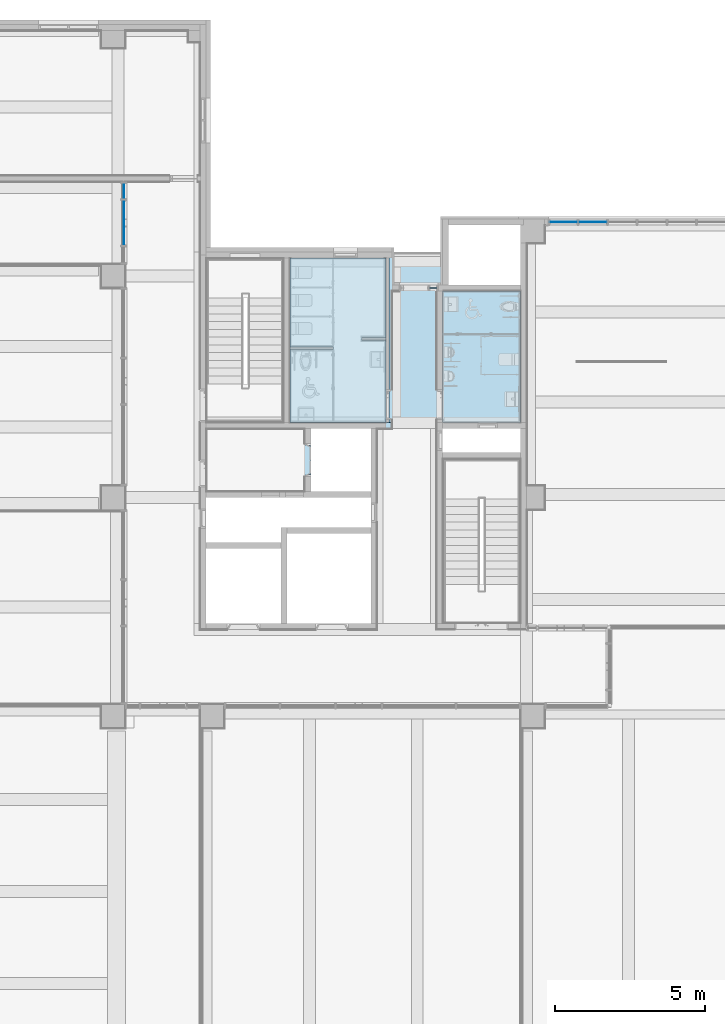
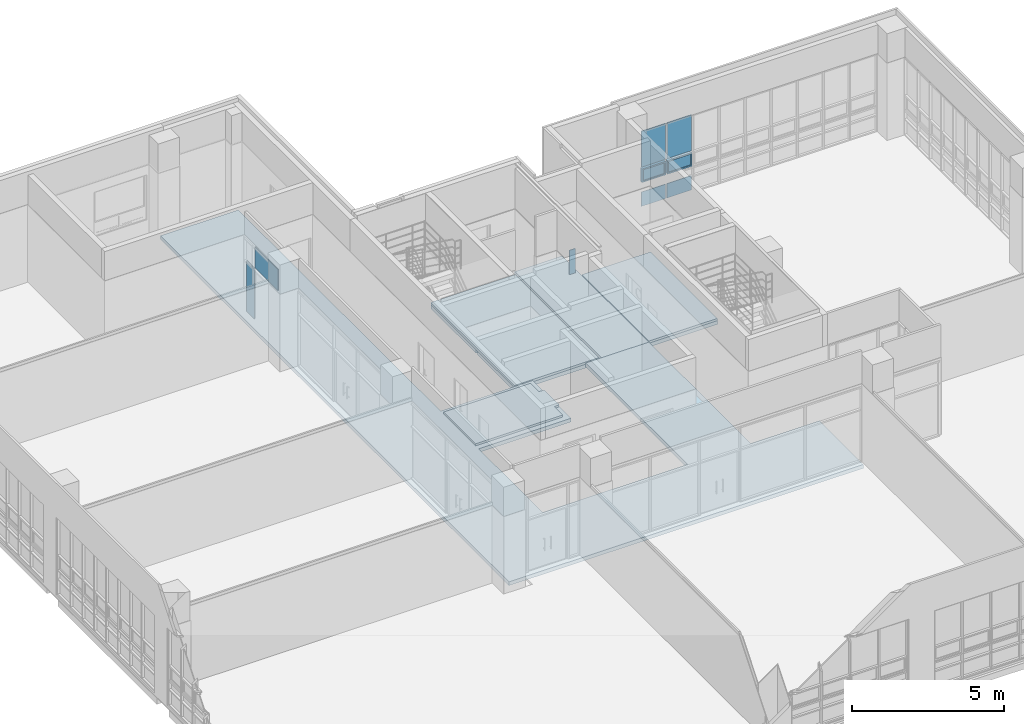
# One storey, part 35 of 74: 9 plates, 7 slabs, 3 elements without a shape of their own.
"""IFC2X3 building model written with IfcOpenShell, lengths in millimetres."""

from ifc_helpers import new_model, entity, si_unit, converted_unit, derived_unit, direction, frame, frame_2d, origin, origin_2d_with_axis, place, context, subcontext, project, spatial, polyline, rectangle, outline, extrude, source, transform, mapped, material, material_list, layer, layer_set, layer_usage, type_object, type_shapes, element, aggregate, save


model = new_model("IFC2X3")

# Units and contexts
model_context = context("Model", 3, precision=0.01, world=origin(), true_north=direction((6.123031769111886e-17, 1.0)))
body_context = subcontext(model_context, "Body", "Model", "MODEL_VIEW")
ifc_project = project(units=[si_unit("LENGTHUNIT", "METRE", prefix="MILLI"), si_unit("AREAUNIT", "SQUARE_METRE"), si_unit("VOLUMEUNIT", "CUBIC_METRE"), converted_unit("PLANEANGLEUNIT", "DEGREE", entity("IfcRatioMeasure", 0.017453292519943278), si_unit("PLANEANGLEUNIT", "RADIAN"), dimensions=[0, 0, 0, 0, 0, 0, 0]), si_unit("MASSUNIT", "GRAM", prefix="KILO"), derived_unit("MASSDENSITYUNIT", [(si_unit("MASSUNIT", "GRAM", prefix="KILO"), 1), (si_unit("LENGTHUNIT", "METRE"), -3)]), derived_unit("MOMENTOFINERTIAUNIT", [(si_unit("LENGTHUNIT", "METRE"), 4)]), si_unit("TIMEUNIT", "SECOND"), si_unit("FREQUENCYUNIT", "HERTZ"), si_unit("THERMODYNAMICTEMPERATUREUNIT", "DEGREE_CELSIUS"), derived_unit("THERMALTRANSMITTANCEUNIT", [(si_unit("MASSUNIT", "GRAM", prefix="KILO"), 1), (si_unit("THERMODYNAMICTEMPERATUREUNIT", "KELVIN"), -1), (si_unit("TIMEUNIT", "SECOND"), -3)]), derived_unit("VOLUMETRICFLOWRATEUNIT", [(si_unit("LENGTHUNIT", "METRE"), 3), (si_unit("TIMEUNIT", "SECOND"), -1)]), derived_unit("MASSFLOWRATEUNIT", [(si_unit("MASSUNIT", "GRAM", prefix="KILO"), 1), (si_unit("TIMEUNIT", "SECOND"), -1)]), derived_unit("ROTATIONALFREQUENCYUNIT", [(si_unit("TIMEUNIT", "SECOND"), -1)]), si_unit("ELECTRICCURRENTUNIT", "AMPERE"), si_unit("ELECTRICVOLTAGEUNIT", "VOLT"), si_unit("POWERUNIT", "WATT"), si_unit("FORCEUNIT", "NEWTON", prefix="KILO"), si_unit("ILLUMINANCEUNIT", "LUX"), si_unit("LUMINOUSFLUXUNIT", "LUMEN"), si_unit("LUMINOUSINTENSITYUNIT", "CANDELA"), derived_unit("USERDEFINED", [(si_unit("MASSUNIT", "GRAM", prefix="KILO"), -1), (si_unit("LENGTHUNIT", "METRE"), -2), (si_unit("TIMEUNIT", "SECOND"), 3), (si_unit("LUMINOUSFLUXUNIT", "LUMEN"), 1)]), derived_unit("SOUNDPOWERUNIT", [(si_unit("MASSUNIT", "GRAM", prefix="KILO"), 1), (si_unit("LENGTHUNIT", "METRE"), 2), (si_unit("TIMEUNIT", "SECOND"), -3)]), derived_unit("SOUNDPRESSUREUNIT", [(si_unit("MASSUNIT", "GRAM", prefix="KILO"), 1), (si_unit("LENGTHUNIT", "METRE"), -1), (si_unit("TIMEUNIT", "SECOND"), -2)]), derived_unit("LINEARVELOCITYUNIT", [(si_unit("LENGTHUNIT", "METRE"), 1), (si_unit("TIMEUNIT", "SECOND"), -1)]), si_unit("PRESSUREUNIT", "PASCAL"), derived_unit("USERDEFINED", [(si_unit("LENGTHUNIT", "METRE"), -2), (si_unit("MASSUNIT", "GRAM", prefix="KILO"), 1), (si_unit("TIMEUNIT", "SECOND"), -2)]), derived_unit("LINEARFORCEUNIT", [(si_unit("MASSUNIT", "GRAM", prefix="KILO"), 1), (si_unit("LENGTHUNIT", "METRE"), 1), (si_unit("TIMEUNIT", "SECOND"), -2), (si_unit("LENGTHUNIT", "METRE"), -1)]), derived_unit("PLANARFORCEUNIT", [(si_unit("MASSUNIT", "GRAM", prefix="KILO"), 1), (si_unit("LENGTHUNIT", "METRE"), 1), (si_unit("TIMEUNIT", "SECOND"), -2), (si_unit("LENGTHUNIT", "METRE"), -2)])], contexts=[model_context])

# Site, building, storey
site_placement = place(None, frame((-14167.972527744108, -657.2125860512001, 0.0)))
site = spatial("IfcSite", under=ifc_project, at=site_placement, Name="Default", CompositionType="ELEMENT")
building_placement = place(site_placement, origin())
building = spatial("IfcBuilding", under=site, at=building_placement, Name="Sample Building", CompositionType="ELEMENT")
storey_placement = place(building_placement, frame((0.0, 0.0, 4800.0)))
storey = spatial("IfcBuildingStorey", under=building, at=storey_placement, Name="지상 2층", CompositionType="ELEMENT", Elevation=4800.000000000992)

# Slabs
ifc_material_1 = material(Name="KBIMS-콘크리트")
ifc_layer_1 = layer(ifc_material_1, 150.0)
ifc_layer_set_1 = layer_set([ifc_layer_1], Name="바닥:SL111-철근콘크리트구조 바닥 150mm_S3")
ifc_layer_usage_1 = layer_usage(ifc_layer_set_1, "AXIS3", "POSITIVE", 0.0)
slab_type_1 = type_object("IfcSlabType", Name="바닥:SL111-철근콘크리트구조 바닥 150mm_S3", PredefinedType="FLOOR", material=ifc_layer_set_1)
slab_1_placement = place(storey_placement, origin())
element("IfcSlab", 1, at=slab_1_placement, inside=storey, type_object=slab_type_1, material=ifc_layer_usage_1, Name="바닥:SL111-철근콘크리트구조 바닥 150mm_S3", ObjectType="바닥:SL111-철근콘크리트구조 바닥 150mm_S3", PredefinedType="FLOOR", context=body_context, shape_type="SweptSolid", body=[
    extrude(outline(polyline([(-7857.142970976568, -6442.761990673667), (15042.857154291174, -6442.761990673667), (15042.857154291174, -3492.8773785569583), (1742.8571704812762, -3492.877378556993), (1742.8571704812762, 7.131351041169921), (-757.1428328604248, 7.131351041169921), (-757.1428328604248, -3492.877341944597), (-4957.142845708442, -3492.87734194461), (-4957.142845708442, 2007.1313510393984), (1742.8571704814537, 2007.1313510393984), (1742.8571704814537, 4407.122658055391), (-4957.142845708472, 4407.122658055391), (-4957.142845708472, 7007.131351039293), (-7857.142845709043, 7007.131351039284), (-7857.142970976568, -6442.761990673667)])), frame((33760.84114009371, 20714.355140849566, 0.0), z_axis=(0.0, 0.0, -1.0), x_axis=(0.0, 1.0, 0.0)), (0.0, 0.0, 1.0), 150.0),
])
ifc_material_2 = material(Name="SL312-화강석물갈기 바닥 (바탕30mm, 마감30mm)")
ifc_layer_2 = layer(ifc_material_2, 80.0)
ifc_layer_set_2 = layer_set([ifc_layer_2], Name="바닥:A1-15-01B-화강석(물갈기) (80mm)")
ifc_layer_usage_2 = layer_usage(ifc_layer_set_2, "AXIS3", "POSITIVE", 0.0)
slab_type_2 = type_object("IfcSlabType", Name="바닥:A1-15-01B-화강석(물갈기) (80mm)", PredefinedType="FLOOR", material=ifc_layer_set_2)
slab_2_placement = place(storey_placement, origin())
element("IfcSlab", 2, at=slab_2_placement, inside=storey, type_object=slab_type_2, material=ifc_layer_usage_2, Name="바닥:A1-15-01B-화강석(물갈기) (80mm)", ObjectType="바닥:A1-15-01B-화강석(물갈기) (80mm)", PredefinedType="FLOOR", context=body_context, shape_type="SweptSolid", body=[
    extrude(outline(polyline([(-1050.0, -2525.0), (1050.0, -2525.0), (1050.0, 775.0), (507.3633281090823, 775.0), (479.7770683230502, 975.0), (-479.7770683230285, 975.0), (-507.3633281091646, 775.0), (-1050.0, 775.0), (-1050.0, -2525.0)])), frame((32791.125814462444, 21207.212309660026, 80.0), z_axis=(0.0, 0.0, -1.0), x_axis=(0.0, 1.0, 0.0)), (0.0, 0.0, 1.0), 80.00000000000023),
])

# Curtain wall, plates
curtain_wall_type = type_object("IfcCurtainWallType", Name="커튼월:CW112-스테인리스 스틸 커튼월", PredefinedType="NOTDEFINED")
curtain_wall_1_placement = place(storey_placement, frame((0.0, 0.0, -4800.0)))
curtain_wall_1 = element("IfcCurtainWall", 3, at=curtain_wall_1_placement, inside=storey, type_object=curtain_wall_type, Name="커튼월:CW112-스테인리스 스틸 커튼월", ObjectType="커튼월:CW112-스테인리스 스틸 커튼월")
ifc_material_3 = material(Name="KBIMS-로이유리(코팅)")
plate_type_1 = type_object("IfcPlateType", Name="CW300-THK24.Low-e coating glass:CW300-THK24.Low-e coating glass", PredefinedType="CURTAIN_PANEL", material=ifc_material_3)
shared_shape_1 = source(origin(), body_context, "Body", "SweptSolid", [
    extrude(rectangle(XDim=938.8888888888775, YDim=24.000000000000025, at=origin_2d_with_axis()), frame((0.0, 0.0, 0.0), z_axis=(0.0, 0.0, 1.0), x_axis=(-1.0, 0.0, 0.0)), (0.0, 0.0, 1.0), 575.0000000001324),
])
type_shapes(plate_type_1, [shared_shape_1])
plate_1_placement = place(curtain_wall_1_placement, frame((43180.87999186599, 29157.21229514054, 4930.0), z_axis=(0.0, 0.0, 1.0), x_axis=(-1.0, 0.0, 0.0)))
plate_1 = element("IfcPlate", 4, at=plate_1_placement, type_object=plate_type_1, material=ifc_material_3, Name="CW300-THK24.Low-e coating glass:CW300-THK24.Low-e coating glass", ObjectType="CW300-THK24.Low-e coating glass:CW300-THK24.Low-e coating glass", context=body_context, shape_type="MappedRepresentation", body=[
    mapped(shared_shape_1, transform((0.0, 0.0, 0.0), scale=1.0)),
])
plate_type_2 = type_object("IfcPlateType", Name="CW300-THK24.Low-e coating glass:CW300-THK24.Low-e coating glass", PredefinedType="CURTAIN_PANEL", material=ifc_material_3)
shared_shape_2 = source(origin(), body_context, "Body", "SweptSolid", [
    extrude(rectangle(XDim=913.8888888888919, YDim=24.000000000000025, at=origin_2d_with_axis()), frame((0.0, 0.0, 0.0), z_axis=(0.0, 0.0, 1.0), x_axis=(-1.0, 0.0, 0.0)), (0.0, 0.0, 1.0), 575.0000000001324),
])
type_shapes(plate_type_2, [shared_shape_2])
plate_2_placement = place(curtain_wall_1_placement, frame((42204.4911029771, 29157.212295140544, 4930.0), z_axis=(0.0, 0.0, 1.0), x_axis=(-1.0, 0.0, 0.0)))
plate_2 = element("IfcPlate", 5, at=plate_2_placement, type_object=plate_type_2, material=ifc_material_3, Name="CW300-THK24.Low-e coating glass:CW300-THK24.Low-e coating glass", ObjectType="CW300-THK24.Low-e coating glass:CW300-THK24.Low-e coating glass", context=body_context, shape_type="MappedRepresentation", body=[
    mapped(shared_shape_2, transform((0.0, 0.0, 0.0), scale=1.0)),
])
ifc_material_4 = material(Name="KBIMS-유리")
ifc_material_5 = material(Name="KBIMS-알루미늄")
ifc_material_list_1 = material_list([ifc_material_4, ifc_material_5])
ifc_material_list_2 = material_list([ifc_material_4, ifc_material_5])
plate_type_3 = type_object("IfcPlateType", Name="CW410-프로젝트 창:CW410-프로젝트 창 (하부개폐)", PredefinedType="CURTAIN_PANEL", material=ifc_material_list_2)
shared_shape_3 = source(origin(), body_context, "Body", "SweptSolid", [
    extrude(rectangle(XDim=838.8888888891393, YDim=23.999999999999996, at=origin_2d_with_axis()), frame((0.0, -0.04999999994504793, 50.0), z_axis=(0.0, 0.0, 1.0), x_axis=(-1.0, 0.0, 0.0)), (0.0, 0.0, 1.0), 450.00000000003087),
    extrude(outline(polyline([(-469.444444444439, -275.0), (469.444444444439, -275.0), (469.444444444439, 275.0), (-469.444444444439, 275.0), (-469.444444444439, -275.0)]), holes=[polyline([(-419.44444444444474, -225.0), (-419.4444444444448, 225.0), (419.44444444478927, 225.0), (419.44444444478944, -225.0), (-419.44444444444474, -225.0)])]), frame((0.0, -50.04999999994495, 275.0), z_axis=(0.0, 1.0, 0.0), x_axis=(1.0, 0.0, 0.0)), (0.0, 0.0, 1.0), 99.99999999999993),
])
type_shapes(plate_type_3, [shared_shape_3])
plate_3_placement = place(curtain_wall_1_placement, frame((43180.87999186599, 29157.21229514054, 5905.0), z_axis=(0.0, 0.0, 1.0), x_axis=(-1.0, 0.0, 0.0)))
plate_3 = element("IfcPlate", 6, at=plate_3_placement, type_object=plate_type_3, material=ifc_material_list_1, Name="CW410-프로젝트 창:CW410-프로젝트 창 (하부개폐)", ObjectType="CW410-프로젝트 창:CW410-프로젝트 창 (하부개폐)", context=body_context, shape_type="MappedRepresentation", body=[
    mapped(shared_shape_3, transform((0.0, 0.0, 0.0), scale=1.0)),
])
ifc_material_list_3 = material_list([ifc_material_4, ifc_material_5])
ifc_material_list_4 = material_list([ifc_material_4, ifc_material_5])
plate_type_4 = type_object("IfcPlateType", Name="CW410-프로젝트 창:CW410-프로젝트 창 (하부개폐)", PredefinedType="CURTAIN_PANEL", material=ifc_material_list_4)
shared_shape_4 = source(origin(), body_context, "Body", "SweptSolid", [
    extrude(rectangle(XDim=813.8888888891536, YDim=23.999999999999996, at=origin_2d_with_axis()), frame((0.0, -0.04999999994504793, 50.0), z_axis=(0.0, 0.0, 1.0), x_axis=(-1.0, 0.0, 0.0)), (0.0, 0.0, 1.0), 450.00000000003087),
    extrude(outline(polyline([(-456.94444444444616, -275.0), (456.94444444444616, -275.0), (456.94444444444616, 275.0), (-456.94444444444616, 275.0), (-456.94444444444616, -275.0)]), holes=[polyline([(-406.9444444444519, -225.0), (-406.94444444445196, 225.0), (406.9444444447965, 225.0), (406.9444444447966, -225.0), (-406.9444444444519, -225.0)])]), frame((0.0, -50.04999999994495, 275.0), z_axis=(0.0, 1.0, 0.0), x_axis=(1.0, 0.0, 0.0)), (0.0, 0.0, 1.0), 99.99999999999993),
])
type_shapes(plate_type_4, [shared_shape_4])
plate_4_placement = place(curtain_wall_1_placement, frame((42204.4911029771, 29157.212295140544, 5905.0), z_axis=(0.0, 0.0, 1.0), x_axis=(-1.0, 0.0, 0.0)))
plate_4 = element("IfcPlate", 7, at=plate_4_placement, type_object=plate_type_4, material=ifc_material_list_3, Name="CW410-프로젝트 창:CW410-프로젝트 창 (하부개폐)", ObjectType="CW410-프로젝트 창:CW410-프로젝트 창 (하부개폐)", context=body_context, shape_type="MappedRepresentation", body=[
    mapped(shared_shape_4, transform((0.0, 0.0, 0.0), scale=1.0)),
])
plate_type_5 = type_object("IfcPlateType", Name="CW300-THK24.Low-e coating glass:CW300-THK24.Low-e coating glass", PredefinedType="CURTAIN_PANEL", material=ifc_material_3)
shared_shape_5 = source(origin(), body_context, "Body", "SweptSolid", [
    extrude(rectangle(XDim=938.8888888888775, YDim=24.000000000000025, at=origin_2d_with_axis()), frame((0.0, 0.0, 0.0), z_axis=(0.0, 0.0, 1.0), x_axis=(-1.0, 0.0, 0.0)), (0.0, 0.0, 1.0), 1445.0000000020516),
])
type_shapes(plate_type_5, [shared_shape_5])
plate_5_placement = place(curtain_wall_1_placement, frame((43180.87999186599, 29157.21229514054, 6505.0), z_axis=(0.0, 0.0, 1.0), x_axis=(-1.0, 0.0, 0.0)))
plate_5 = element("IfcPlate", 8, at=plate_5_placement, type_object=plate_type_5, material=ifc_material_3, Name="CW300-THK24.Low-e coating glass:CW300-THK24.Low-e coating glass", ObjectType="CW300-THK24.Low-e coating glass:CW300-THK24.Low-e coating glass", context=body_context, shape_type="MappedRepresentation", body=[
    mapped(shared_shape_5, transform((0.0, 0.0, 0.0), scale=1.0)),
])
plate_type_6 = type_object("IfcPlateType", Name="CW300-THK24.Low-e coating glass:CW300-THK24.Low-e coating glass", PredefinedType="CURTAIN_PANEL", material=ifc_material_3)
shared_shape_6 = source(origin(), body_context, "Body", "SweptSolid", [
    extrude(rectangle(XDim=913.8888888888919, YDim=24.000000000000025, at=origin_2d_with_axis()), frame((0.0, 0.0, 0.0), z_axis=(0.0, 0.0, 1.0), x_axis=(-1.0, 0.0, 0.0)), (0.0, 0.0, 1.0), 1445.0000000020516),
])
type_shapes(plate_type_6, [shared_shape_6])
plate_6_placement = place(curtain_wall_1_placement, frame((42204.4911029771, 29157.212295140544, 6505.0), z_axis=(0.0, 0.0, 1.0), x_axis=(-1.0, 0.0, 0.0)))
plate_6 = element("IfcPlate", 9, at=plate_6_placement, type_object=plate_type_6, material=ifc_material_3, Name="CW300-THK24.Low-e coating glass:CW300-THK24.Low-e coating glass", ObjectType="CW300-THK24.Low-e coating glass:CW300-THK24.Low-e coating glass", context=body_context, shape_type="MappedRepresentation", body=[
    mapped(shared_shape_6, transform((0.0, 0.0, 0.0), scale=1.0)),
])
aggregate(curtain_wall_1, [plate_1, plate_2, plate_3, plate_4, plate_5, plate_6])

# Curtain wall, plate
curtain_wall_2_placement = place(storey_placement, frame((0.0, 0.0, -4800.0)))
curtain_wall_2 = element("IfcCurtainWall", 10, at=curtain_wall_2_placement, inside=storey, type_object=curtain_wall_type, Name="커튼월:CW112-스테인리스 스틸 커튼월", ObjectType="커튼월:CW112-스테인리스 스틸 커튼월")
plate_type_7 = type_object("IfcPlateType", Name="CW300-THK24.Low-e coating glass:CW300-THK24.Low-e coating glass", PredefinedType="CURTAIN_PANEL", material=ifc_material_3)
shared_shape_7 = source(origin(), body_context, "Body", "SweptSolid", [
    extrude(rectangle(XDim=524.9999999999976, YDim=24.000000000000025, at=origin_2d_with_axis()), frame((0.0, 0.0, 0.0), z_axis=(0.0, 0.0, 1.0), x_axis=(-1.0, 0.0, 0.0)), (0.0, 0.0, 1.0), 2025.000000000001),
])
type_shapes(plate_type_7, [shared_shape_7])
plate_7_placement = place(curtain_wall_2_placement, frame((27522.980314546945, 30194.712275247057, 4930.0), z_axis=(0.0, 0.0, 1.0), x_axis=(0.0, -1.0, 0.0)))
plate_7 = element("IfcPlate", 11, at=plate_7_placement, type_object=plate_type_7, material=ifc_material_3, Name="CW300-THK24.Low-e coating glass:CW300-THK24.Low-e coating glass", ObjectType="CW300-THK24.Low-e coating glass:CW300-THK24.Low-e coating glass", context=body_context, shape_type="MappedRepresentation", body=[
    mapped(shared_shape_7, transform((0.0, 0.0, 0.0), scale=1.0)),
])

# Slabs
ifc_layer_3 = layer(ifc_material_1, 150.0)
ifc_layer_set_3 = layer_set([ifc_layer_3], Name="바닥:SL111-철근콘크리트구조 바닥 150mm_S4")
ifc_layer_usage_3 = layer_usage(ifc_layer_set_3, "AXIS3", "POSITIVE", 0.0)
slab_type_3 = type_object("IfcSlabType", Name="바닥:SL111-철근콘크리트구조 바닥 150mm_S4", PredefinedType="FLOOR", material=ifc_layer_set_3)
slab_3_placement = place(storey_placement, origin())
element("IfcSlab", 12, at=slab_3_placement, inside=storey, type_object=slab_type_3, material=ifc_layer_usage_3, Name="바닥:SL111-철근콘크리트구조 바닥 150mm_S4", ObjectType="바닥:SL111-철근콘크리트구조 바닥 150mm_S4", PredefinedType="FLOOR", context=body_context, shape_type="SweptSolid", body=[
    extrude(rectangle(XDim=5699.999805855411, YDim=1799.9825708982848, at=frame_2d((-2.2737367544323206e-12, 0.0), x_axis=(1.0, 0.0))), frame((37267.963776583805, 25307.212214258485, 0.0), z_axis=(0.0, 0.0, -1.0), x_axis=(0.0, 1.0, 0.0)), (0.0, 0.0, 1.0), 150.0),
])
ifc_layer_usage_4 = layer_usage(ifc_layer_set_3, "AXIS3", "POSITIVE", 0.0)
slab_type_4 = type_object("IfcSlabType", Name="바닥:SL111-철근콘크리트구조 바닥 150mm_S4", PredefinedType="FLOOR")
slab_4_placement = place(storey_placement, frame((33067.972491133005, 22457.21230348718, -200.0)))
element("IfcSlab", 13, at=slab_4_placement, inside=storey, type_object=slab_type_4, material=ifc_layer_usage_4, Name="바닥:SL111-철근콘크리트구조 바닥 150mm_S4", ObjectType="바닥:SL111-철근콘크리트구조 바닥 150mm_S4", PredefinedType="FLOOR", context=body_context, shape_type="SweptSolid", body=[
    extrude(outline(polyline([(650.0130394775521, 2750.0), (650.0130394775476, 90.00000225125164), (1450.013039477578, 90.00000225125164), (1450.013039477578, 2.251241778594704e-06), (650.0130394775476, 2.251241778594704e-06), (650.0130394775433, -2749.9999944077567), (3850.0043464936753, -2749.9999944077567), (3850.0043464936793, -310.46840796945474), (2420.013082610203, -310.46840796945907), (2420.013082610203, -220.46840796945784), (3850.0043464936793, -220.46840796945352), (3850.0043464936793, 2750.0), (650.0130394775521, 2750.0)])), frame((3850.0043464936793, 2750.0, 150.0), z_axis=(0.0, 0.0, -1.0), x_axis=(-1.0, 0.0, 0.0)), (0.0, 0.0, 1.0), 150.0),
])
slab_type_5 = type_object("IfcSlabType", Name="바닥:SL111-철근콘크리트구조 바닥 150mm_S4", PredefinedType="FLOOR", material=ifc_layer_set_3)
slab_5_placement = place(storey_placement, frame((33067.972491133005, 22457.21230348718, -200.0)))
element("IfcSlab", 14, at=slab_5_placement, inside=storey, type_object=slab_type_5, material=ifc_layer_usage_4, Name="바닥:SL111-철근콘크리트구조 바닥 150mm_S4:2", ObjectType="바닥:SL111-철근콘크리트구조 바닥 150mm_S4", PredefinedType="FLOOR", context=body_context, shape_type="SweptSolid", body=[
    extrude(rectangle(XDim=4400.000004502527, YDim=2600.0173859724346, at=frame_2d((-2549.995653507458, -550.0), x_axis=(0.0, -1.0))), frame((3850.0043464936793, 2750.0, 150.0), z_axis=(0.0, 0.0, -1.0), x_axis=(-1.0, 0.0, 0.0)), (0.0, 0.0, 1.0), 150.0),
])

# Curtain wall, plate
curtain_wall_3_placement = place(storey_placement, frame((0.0, 0.0, -4800.0)))
curtain_wall_3 = element("IfcCurtainWall", 15, at=curtain_wall_3_placement, inside=storey, type_object=curtain_wall_type, Name="커튼월:CW112-스테인리스 스틸 커튼월", ObjectType="커튼월:CW112-스테인리스 스틸 커튼월")
plate_type_8 = type_object("IfcPlateType", Name="CW300-THK24.Low-e coating glass:CW300-THK24.Low-e coating glass", PredefinedType="CURTAIN_PANEL", material=ifc_material_3)
shared_shape_8 = source(origin(), body_context, "Body", "SweptSolid", [
    extrude(rectangle(XDim=225.00869297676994, YDim=24.000000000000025, at=origin_2d_with_axis()), frame((0.0, 0.0, 0.0), z_axis=(0.0, 0.0, 1.0), x_axis=(-1.0, 0.0, 0.0)), (0.0, 0.0, 1.0), 975.0000000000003),
])
type_shapes(plate_type_8, [shared_shape_8])
plate_8_placement = place(curtain_wall_3_placement, frame((37855.4681446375, 26957.212295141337, 4930.0)))
plate_8 = element("IfcPlate", 16, at=plate_8_placement, type_object=plate_type_8, material=ifc_material_3, Name="CW300-THK24.Low-e coating glass:CW300-THK24.Low-e coating glass", ObjectType="CW300-THK24.Low-e coating glass:CW300-THK24.Low-e coating glass", context=body_context, shape_type="MappedRepresentation", body=[
    mapped(shared_shape_8, transform((0.0, 0.0, 0.0), scale=1.0)),
])
aggregate(curtain_wall_3, [plate_8])

# Plate
plate_type_9 = type_object("IfcPlateType", Name="CW300-THK24.Low-e coating glass:CW300-THK24.Low-e coating glass", PredefinedType="CURTAIN_PANEL", material=ifc_material_3)
shared_shape_9 = source(origin(), body_context, "Body", "SweptSolid", [
    extrude(rectangle(XDim=1504.9996891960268, YDim=24.000000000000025, at=origin_2d_with_axis()), frame((0.0, 0.0, 0.0), z_axis=(0.0, 0.0, 1.0), x_axis=(-1.0, 0.0, 0.0)), (0.0, 0.0, 1.0), 845.0000000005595),
])
type_shapes(plate_type_9, [shared_shape_9])
plate_9_placement = place(curtain_wall_2_placement, frame((27522.980314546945, 29129.71243064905, 7005.0), z_axis=(0.0, 0.0, 1.0), x_axis=(0.0, -1.0, 0.0)))
plate_9 = element("IfcPlate", 17, at=plate_9_placement, type_object=plate_type_9, material=ifc_material_3, Name="CW300-THK24.Low-e coating glass:CW300-THK24.Low-e coating glass", ObjectType="CW300-THK24.Low-e coating glass:CW300-THK24.Low-e coating glass", context=body_context, shape_type="MappedRepresentation", body=[
    mapped(shared_shape_9, transform((0.0, 0.0, 0.0), scale=1.0)),
])

aggregate(curtain_wall_2, [plate_7, plate_9])

# Slabs
ifc_material_6 = material(Name="SL351-자기질타일 바닥 (바탕32mm, 압착8mm)")
ifc_layer_4 = layer(ifc_material_6, 40.0)
ifc_material_7 = material(Name="SL553-보호모르타르 바닥 (콘크리트면) 30mm")
ifc_layer_5 = layer(ifc_material_7, 30.0)
ifc_material_8 = material(Name="SL521-도막방수 바닥 (비노출) 3mm")
ifc_layer_6 = layer(ifc_material_8, 3.0)
ifc_material_9 = material(Name="SL551-시멘트모르타르 미장 바닥 17mm")
ifc_layer_7 = layer(ifc_material_9, 17.0)
ifc_layer_set_4 = layer_set([ifc_layer_4, ifc_layer_5, ifc_layer_6, ifc_layer_7], Name="바닥:A1-14-03A-시멘트모르타르(고름용), 도막방수, 시멘트모르타르(보호용), 자기질타일 (90mm)")
ifc_layer_usage_5 = layer_usage(ifc_layer_set_4, "AXIS3", "POSITIVE", 0.0)
slab_type_6 = type_object("IfcSlabType", Name="바닥:A1-14-03A-시멘트모르타르(고름용), 도막방수, 시멘트모르타르(보호용), 자기질타일 (90mm)", PredefinedType="FLOOR", material=ifc_layer_set_4)
slab_6_placement = place(storey_placement, origin())
element("IfcSlab", 18, at=slab_6_placement, inside=storey, type_object=slab_type_6, material=ifc_layer_usage_5, Name="바닥:A1-14-03A-시멘트모르타르(고름용), 도막방수, 시멘트모르타르(보호용), 자기질타일 (90mm)", ObjectType="바닥:A1-14-03A-시멘트모르타르(고름용), 도막방수, 시멘트모르타르(보호용), 자기질타일 (90mm)", PredefinedType="FLOOR", context=body_context, shape_type="SweptSolid", body=[
    extrude(rectangle(XDim=5499.999996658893, YDim=3199.99130701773, at=frame_2d((0.0, -2.1600499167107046e-12), x_axis=(1.0, 0.0))), frame((34667.96814464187, 25207.212309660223, 40.0), z_axis=(0.0, 0.0, -1.0), x_axis=(0.0, 1.0, 0.0)), (0.0, 0.0, 1.0), 90.00000000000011),
])
ifc_layer_usage_6 = layer_usage(ifc_layer_set_4, "AXIS3", "POSITIVE", 0.0)
slab_type_7 = type_object("IfcSlabType", Name="바닥:A1-14-03A-시멘트모르타르(고름용), 도막방수, 시멘트모르타르(보호용), 자기질타일 (90mm)", PredefinedType="FLOOR", material=ifc_layer_set_4)
slab_7_placement = place(storey_placement, origin())
element("IfcSlab", 19, at=slab_7_placement, inside=storey, type_object=slab_type_7, material=ifc_layer_usage_6, Name="바닥:A1-14-03A-시멘트모르타르(고름용), 도막방수, 시멘트모르타르(보호용), 자기질타일 (90mm)", ObjectType="바닥:A1-14-03A-시멘트모르타르(고름용), 도막방수, 시멘트모르타르(보호용), 자기질타일 (90mm)", PredefinedType="FLOOR", context=body_context, shape_type="SweptSolid", body=[
    extrude(rectangle(XDim=4399.999996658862, YDim=2600.017385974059, at=frame_2d((-2.0463630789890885e-12, -4.320099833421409e-12), x_axis=(1.0, 0.0))), frame((39467.97249113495, 24657.212309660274, 40.0), z_axis=(0.0, 0.0, -1.0), x_axis=(0.0, 1.0, 0.0)), (0.0, 0.0, 1.0), 90.00000000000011),
])

save(model, "model.ifc")
